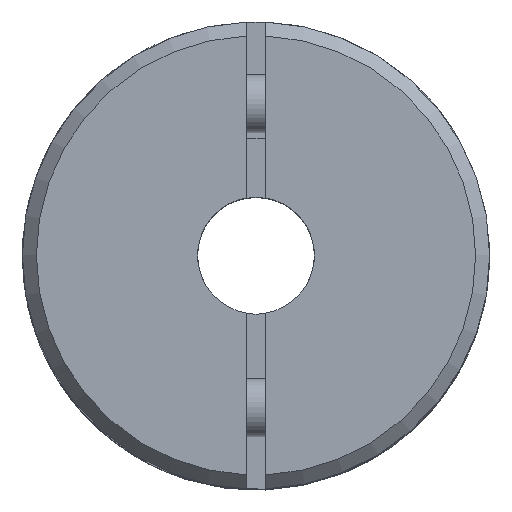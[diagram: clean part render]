
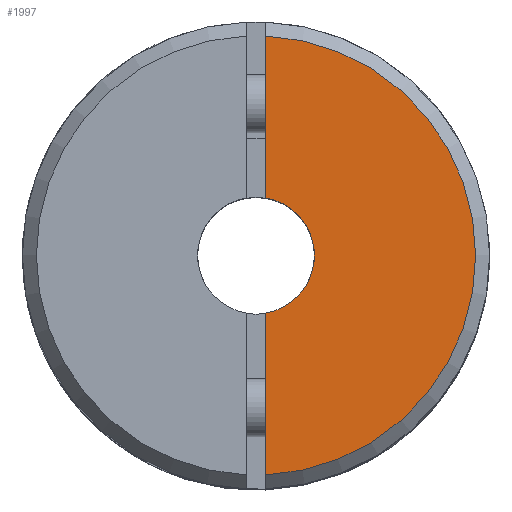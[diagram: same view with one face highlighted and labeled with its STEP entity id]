
A CAD part, top view. The second image highlights one B-rep face of the part: STEP entity #1997.
In plain terms, the highlighted planar face has unit normal (0, 0, 1).
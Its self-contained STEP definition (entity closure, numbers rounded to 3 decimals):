
#177 = DIRECTION ( 'NONE',  ( 0., -1., 0. ) ) ;
#269 = VERTEX_POINT ( 'NONE', #1024 ) ;
#318 = AXIS2_PLACEMENT_3D ( 'NONE', #1530, #3629, #2932 ) ;
#428 = CARTESIAN_POINT ( 'NONE',  ( 0., 1.5, 13. ) ) ;
#476 = CARTESIAN_POINT ( 'NONE',  ( 0.4, 15., 13. ) ) ;
#504 = DIRECTION ( 'NONE',  ( 0., -1., 0. ) ) ;
#712 = AXIS2_PLACEMENT_3D ( 'NONE', #428, #3529, #1057 ) ;
#865 = EDGE_CURVE ( 'NONE', #4143, #1020, #1420, .T. ) ;
#1020 = VERTEX_POINT ( 'NONE', #1084 ) ;
#1024 = CARTESIAN_POINT ( 'NONE',  ( 0.4, -9.391, 13. ) ) ;
#1057 = DIRECTION ( 'NONE',  ( 0., 1., 0. ) ) ;
#1084 = CARTESIAN_POINT ( 'NONE',  ( 0.4, 2.468, 13. ) ) ;
#1187 = ORIENTED_EDGE ( 'NONE', *, *, #4308, .T. ) ;
#1189 = CIRCLE ( 'NONE', #318, 9.4 ) ;
#1420 = CIRCLE ( 'NONE', #3310, 2.5 ) ;
#1428 = CARTESIAN_POINT ( 'NONE',  ( 0.4, 9.391, 13. ) ) ;
#1474 = ORIENTED_EDGE ( 'NONE', *, *, #2593, .T. ) ;
#1528 = LINE ( 'NONE', #476, #2554 ) ;
#1530 = CARTESIAN_POINT ( 'NONE',  ( 0., 0., 13. ) ) ;
#1566 = VERTEX_POINT ( 'NONE', #1428 ) ;
#1805 = CARTESIAN_POINT ( 'NONE',  ( 0., 0., 13. ) ) ;
#1997 = ADVANCED_FACE ( 'NONE', ( #2117 ), #2537, .F. ) ;
#2117 = FACE_OUTER_BOUND ( 'NONE', #3431, .T. ) ;
#2165 = DIRECTION ( 'NONE',  ( 1., 0., 0. ) ) ;
#2537 = PLANE ( 'NONE',  #712 ) ;
#2554 = VECTOR ( 'NONE', #504, 1000. ) ;
#2563 = ORIENTED_EDGE ( 'NONE', *, *, #865, .F. ) ;
#2593 = EDGE_CURVE ( 'NONE', #4143, #269, #1528, .T. ) ;
#2627 = LINE ( 'NONE', #3651, #3975 ) ;
#2932 = DIRECTION ( 'NONE',  ( 0., 1., 0. ) ) ;
#3195 = DIRECTION ( 'NONE',  ( 0., 0., 1. ) ) ;
#3310 = AXIS2_PLACEMENT_3D ( 'NONE', #1805, #3195, #2165 ) ;
#3431 = EDGE_LOOP ( 'NONE', ( #1187, #2563, #1474, #3864 ) ) ;
#3529 = DIRECTION ( 'NONE',  ( 0., 0., -1. ) ) ;
#3629 = DIRECTION ( 'NONE',  ( 0., 0., 1. ) ) ;
#3640 = EDGE_CURVE ( 'NONE', #269, #1566, #1189, .T. ) ;
#3651 = CARTESIAN_POINT ( 'NONE',  ( 0.4, 15., 13. ) ) ;
#3864 = ORIENTED_EDGE ( 'NONE', *, *, #3640, .T. ) ;
#3975 = VECTOR ( 'NONE', #177, 1000. ) ;
#4143 = VERTEX_POINT ( 'NONE', #4464 ) ;
#4308 = EDGE_CURVE ( 'NONE', #1566, #1020, #2627, .T. ) ;
#4464 = CARTESIAN_POINT ( 'NONE',  ( 0.4, -2.468, 13. ) ) ;
